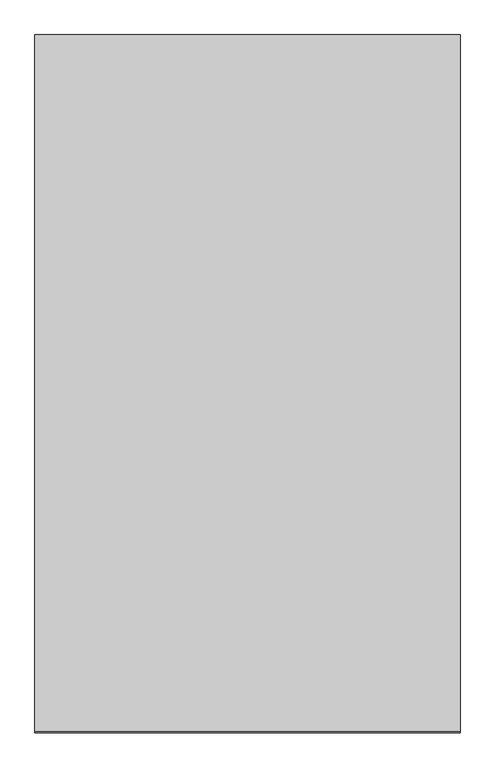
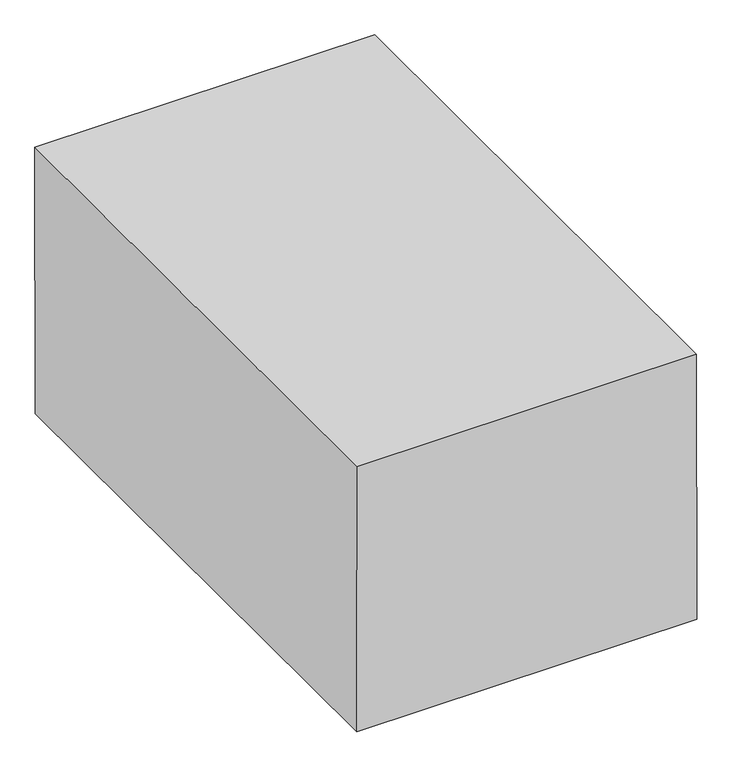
"""IFC4 building model written with IfcOpenShell, lengths in millimetres: proxy geometry, Excavation FamilySP : Excavation FamilySP."""

from ifc_helpers import new_model, si_unit, frame, origin, place, context, project, spatial, polyline, outline, extrude, source, transform, mapped, element, save


def generic_models_79558771(model_context):
    return source(origin(), model_context, "Body", "SweptSolid", [
        extrude(outline(polyline([(5.5729847, 2521.4389553), (0.0, 0.0), (-4999.9877947, 11.0511719), (-4994.4389783, 2521.555473), (5.5729847, 2521.4389553)])), frame((-1524.0, 0.0, 0.0), z_axis=(1.0, 0.0, 0.0), x_axis=(0.0, 1.0, 0.0)), (0.0, 0.0, 1.0), 3048.0),
    ])


if __name__ == "__main__":
    model = new_model("IFC4")
    model_context = context("Model", 3, world=origin())
    ifc_project = project(units=[si_unit("LENGTHUNIT", "METRE", prefix="MILLI")], contexts=[model_context])
    site = spatial("IfcSite", under=ifc_project)
    building = spatial("IfcBuilding", under=site)
    placement = place(None, origin())
    generic_models_shape = generic_models_79558771(model_context)
    element("IfcBuildingElementProxy", 1, Name="Excavation FamilySP : Excavation FamilySP", ObjectType="Excavation FamilySP : Excavation FamilySP", at=placement, inside=building, context=model_context, shape_type="MappedRepresentation", body=[
        mapped(generic_models_shape, transform((0.0, 0.0, 0.0), x_axis=(1.0, 0.0, 0.0), y_axis=(0.0, 1.0, 0.0), z_axis=(0.0, 0.0, 1.0))),
    ])
    save(model, "model.ifc")
